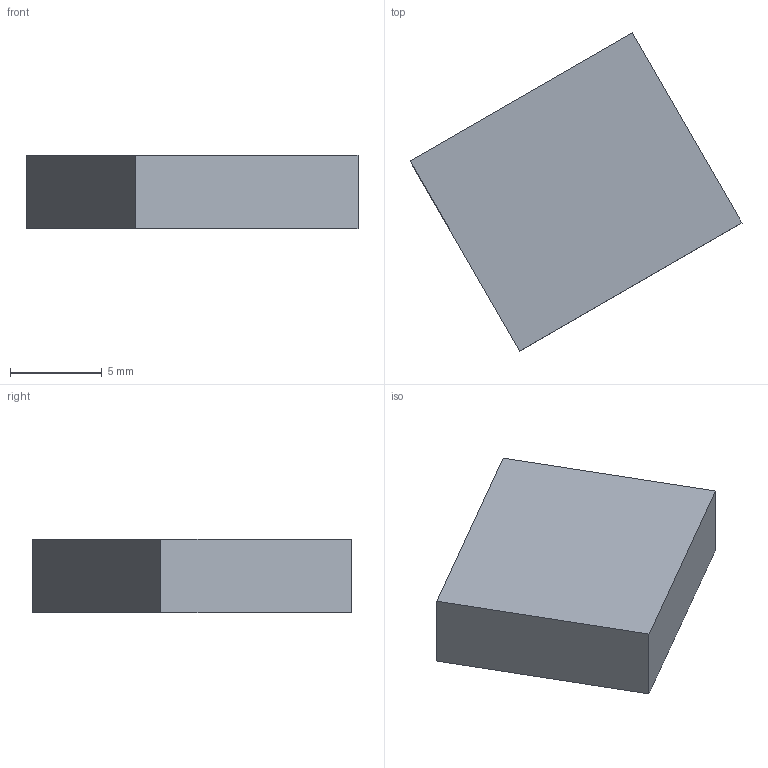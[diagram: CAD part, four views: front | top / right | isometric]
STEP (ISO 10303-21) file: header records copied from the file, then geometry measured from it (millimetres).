
FILE_DESCRIPTION(('Open CASCADE Model'),'2;1');
FILE_NAME('Open CASCADE Shape Model','2026-10-04T02:31:37',('Author'),( 'Open CASCADE'),'Open CASCADE STEP processor 8.0','Open CASCADE 8.0' ,'Unknown');
FILE_SCHEMA(('AUTOMOTIVE_DESIGN { 1 0 10303 214 1 1 1 1 }'));
Length unit declared in the file: millimetre
Products named in the file (1): Open CASCADE STEP translator 8.0 85
Bounding box: 18.12 x 17.39 x 4 mm (x, y, z)
Volume: 672 mm3; surface area: 544 mm2
Topology: 1 solids, 1 shells, 6 faces, 12 edges, 8 vertices
Faces by surface type: plane 6
Entity records: 322 total; most frequent: CARTESIAN_POINT 51, DIRECTION 50, LINE 36, VECTOR 36, ORIENTED_EDGE 24, PCURVE 24, DEFINITIONAL_REPRESENTATION 24, EDGE_CURVE 12
